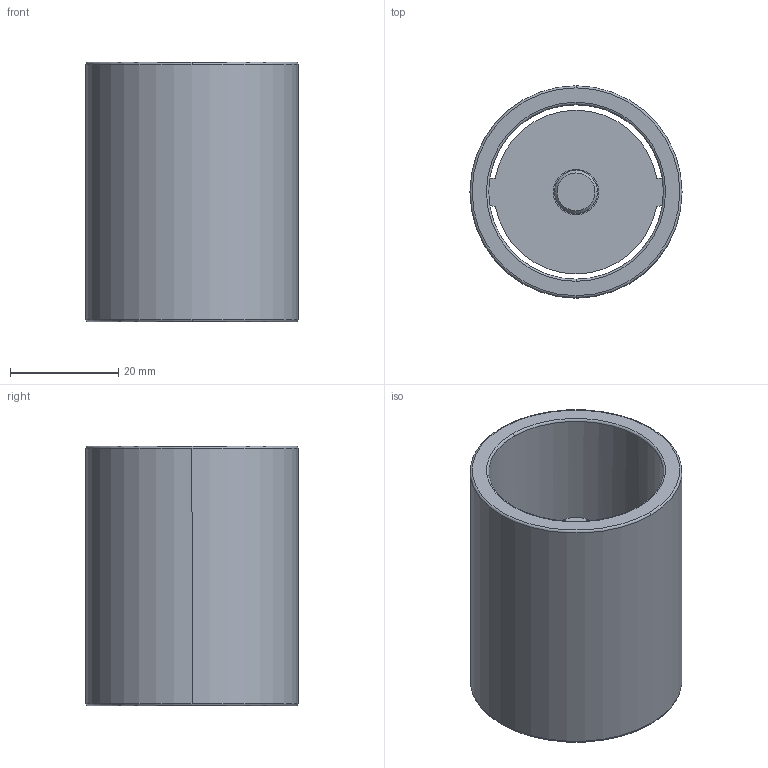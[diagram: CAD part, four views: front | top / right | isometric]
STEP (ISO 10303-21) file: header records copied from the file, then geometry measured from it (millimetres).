
FILE_DESCRIPTION((''),'2;1');
FILE_NAME('C11_032_048.stp','2009-01-12T09:25:04',(''),(''),'Mechanical Desktop 2009','Mechanical Desktop 2009',', , ');
FILE_SCHEMA(('CONFIG_CONTROL_DESIGN'));
Length unit declared in the file: millimetre
Products named in the file (2): Product; blmdl1
Assembly tree (1 placements, depth 2):
  Product
    blmdl1
Bounding box: 39.25 x 39.25 x 48 mm (x, y, z)
Volume: 21591.6 mm3; surface area: 14275.9 mm2
Topology: 3 solids, 3 shells, 44 faces, 110 edges, 74 vertices
Faces by surface type: cylinder 16, plane 16, torus 10, cone 2
Entity records: 1507 total; most frequent: CARTESIAN_POINT 274, DIRECTION 266, ORIENTED_EDGE 220, AXIS2_PLACEMENT_3D 114, EDGE_CURVE 110, VERTEX_POINT 74, CIRCLE 68, EDGE_LOOP 50
